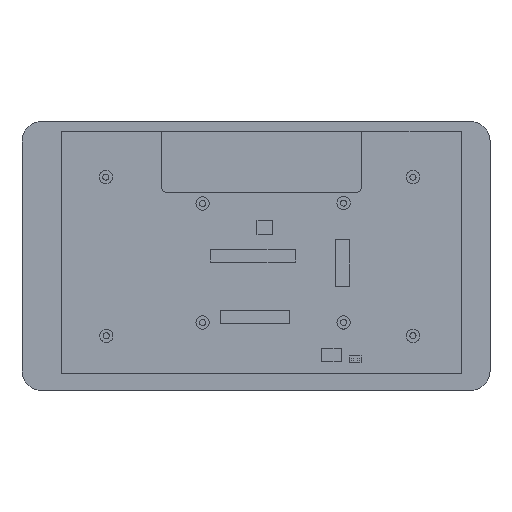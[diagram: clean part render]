
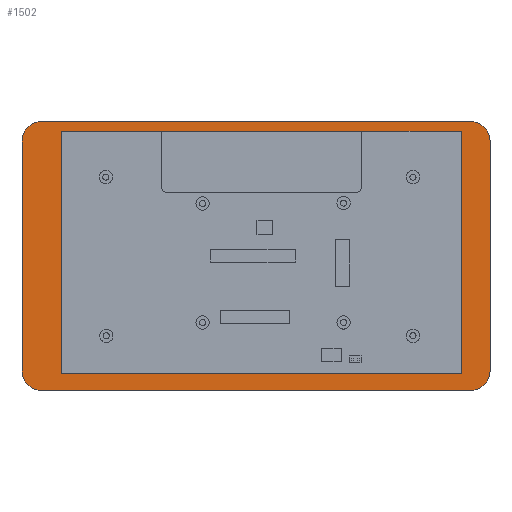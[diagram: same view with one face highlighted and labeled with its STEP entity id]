
A CAD part, top view. The second image highlights one B-rep face of the part: STEP entity #1502.
In plain terms, the highlighted planar face has unit normal (0, 0, 1).
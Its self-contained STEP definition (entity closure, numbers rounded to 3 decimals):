
#2=DIRECTION('',(1.,0.,0.));
#3=VECTOR('',#2,176.9);
#4=CARTESIAN_POINT('',(-88.45,55.4,-2.42));
#5=LINE('',#4,#3);
#6=CARTESIAN_POINT('',(88.45,47.4,-2.42));
#7=DIRECTION('',(0.,0.,1.));
#8=DIRECTION('',(1.,0.,0.));
#9=AXIS2_PLACEMENT_3D('',#6,#7,#8);
#11=DIRECTION('',(0.,1.,0.));
#12=VECTOR('',#11,94.8);
#13=CARTESIAN_POINT('',(96.45,-47.4,-2.42));
#14=LINE('',#13,#12);
#15=CARTESIAN_POINT('',(88.45,-47.4,-2.42));
#16=DIRECTION('',(0.,0.,-1.));
#17=DIRECTION('',(1.,0.,0.));
#18=AXIS2_PLACEMENT_3D('',#15,#16,#17);
#20=CARTESIAN_POINT('',(-88.45,-47.4,-2.42));
#21=DIRECTION('',(0.,0.,1.));
#22=DIRECTION('',(-1.,0.,0.));
#23=AXIS2_PLACEMENT_3D('',#20,#21,#22);
#25=DIRECTION('',(0.,1.,0.));
#26=VECTOR('',#25,94.8);
#27=CARTESIAN_POINT('',(-96.45,-47.4,-2.42));
#28=LINE('',#27,#26);
#29=CARTESIAN_POINT('',(-88.45,47.4,-2.42));
#30=DIRECTION('',(0.,0.,-1.));
#31=DIRECTION('',(-1.,0.,0.));
#32=AXIS2_PLACEMENT_3D('',#29,#30,#31);
#34=DIRECTION('',(0.,-1.,0.));
#35=VECTOR('',#34,100.);
#36=CARTESIAN_POINT('',(-80.3,51.5,-2.42));
#37=LINE('',#36,#35);
#38=DIRECTION('',(1.,0.,0.));
#39=VECTOR('',#38,165.);
#40=CARTESIAN_POINT('',(-80.3,-48.5,-2.42));
#41=LINE('',#40,#39);
#42=DIRECTION('',(0.,1.,0.));
#43=VECTOR('',#42,100.);
#44=CARTESIAN_POINT('',(84.7,-48.5,-2.42));
#45=LINE('',#44,#43);
#46=DIRECTION('',(-1.,0.,0.));
#47=VECTOR('',#46,165.);
#48=CARTESIAN_POINT('',(84.7,51.5,-2.42));
#49=LINE('',#48,#47);
#98=DIRECTION('',(1.,0.,0.));
#99=VECTOR('',#98,176.9);
#100=CARTESIAN_POINT('',(-88.45,-55.4,-2.42));
#101=LINE('',#100,#99);
#1114=CARTESIAN_POINT('',(-96.45,47.4,-2.42));
#1115=CARTESIAN_POINT('',(-88.45,55.4,-2.42));
#1116=VERTEX_POINT('',#1114);
#1117=VERTEX_POINT('',#1115);
#1122=CARTESIAN_POINT('',(-96.45,-47.4,-2.42));
#1123=CARTESIAN_POINT('',(-88.45,-55.4,-2.42));
#1124=VERTEX_POINT('',#1122);
#1125=VERTEX_POINT('',#1123);
#1130=CARTESIAN_POINT('',(96.45,47.4,-2.42));
#1131=CARTESIAN_POINT('',(88.45,55.4,-2.42));
#1132=VERTEX_POINT('',#1130);
#1133=VERTEX_POINT('',#1131);
#1138=CARTESIAN_POINT('',(96.45,-47.4,-2.42));
#1139=CARTESIAN_POINT('',(88.45,-55.4,-2.42));
#1140=VERTEX_POINT('',#1138);
#1141=VERTEX_POINT('',#1139);
#1150=CARTESIAN_POINT('',(-80.3,51.5,-2.42));
#1151=CARTESIAN_POINT('',(-80.3,-48.5,-2.42));
#1152=VERTEX_POINT('',#1150);
#1153=VERTEX_POINT('',#1151);
#1154=CARTESIAN_POINT('',(84.7,-48.5,-2.42));
#1155=VERTEX_POINT('',#1154);
#1156=CARTESIAN_POINT('',(84.7,51.5,-2.42));
#1157=VERTEX_POINT('',#1156);
#1470=CARTESIAN_POINT('',(-100.014,-66.793,-2.42));
#1471=DIRECTION('',(0.,0.,-1.));
#1472=DIRECTION('',(1.,0.,0.));
#1473=AXIS2_PLACEMENT_3D('',#1470,#1471,#1472);
#1474=PLANE('',#1473);
#1476=ORIENTED_EDGE('',*,*,#1475,.T.);
#1478=ORIENTED_EDGE('',*,*,#1477,.F.);
#1480=ORIENTED_EDGE('',*,*,#1479,.F.);
#1482=ORIENTED_EDGE('',*,*,#1481,.T.);
#1484=ORIENTED_EDGE('',*,*,#1483,.F.);
#1486=ORIENTED_EDGE('',*,*,#1485,.F.);
#1487=ORIENTED_EDGE('',*,*,#1459,.T.);
#1489=ORIENTED_EDGE('',*,*,#1488,.T.);
#1490=EDGE_LOOP('',(#1476,#1478,#1480,#1482,#1484,#1486,#1487,#1489));
#1491=FACE_OUTER_BOUND('',#1490,.F.);
#1493=ORIENTED_EDGE('',*,*,#1492,.T.);
#1495=ORIENTED_EDGE('',*,*,#1494,.T.);
#1497=ORIENTED_EDGE('',*,*,#1496,.T.);
#1499=ORIENTED_EDGE('',*,*,#1498,.T.);
#1500=EDGE_LOOP('',(#1493,#1495,#1497,#1499));
#1501=FACE_BOUND('',#1500,.F.);
#1502=ADVANCED_FACE('',(#1491,#1501),#1474,.F.);
#10=CIRCLE('',#9,8.);
#19=CIRCLE('',#18,8.);
#24=CIRCLE('',#23,8.);
#33=CIRCLE('',#32,8.);
#1459=EDGE_CURVE('',#1124,#1116,#28,.T.);
#1475=EDGE_CURVE('',#1117,#1133,#5,.T.);
#1477=EDGE_CURVE('',#1132,#1133,#10,.T.);
#1479=EDGE_CURVE('',#1140,#1132,#14,.T.);
#1481=EDGE_CURVE('',#1140,#1141,#19,.T.);
#1483=EDGE_CURVE('',#1125,#1141,#101,.T.);
#1485=EDGE_CURVE('',#1124,#1125,#24,.T.);
#1488=EDGE_CURVE('',#1116,#1117,#33,.T.);
#1492=EDGE_CURVE('',#1152,#1153,#37,.T.);
#1494=EDGE_CURVE('',#1153,#1155,#41,.T.);
#1496=EDGE_CURVE('',#1155,#1157,#45,.T.);
#1498=EDGE_CURVE('',#1157,#1152,#49,.T.);
